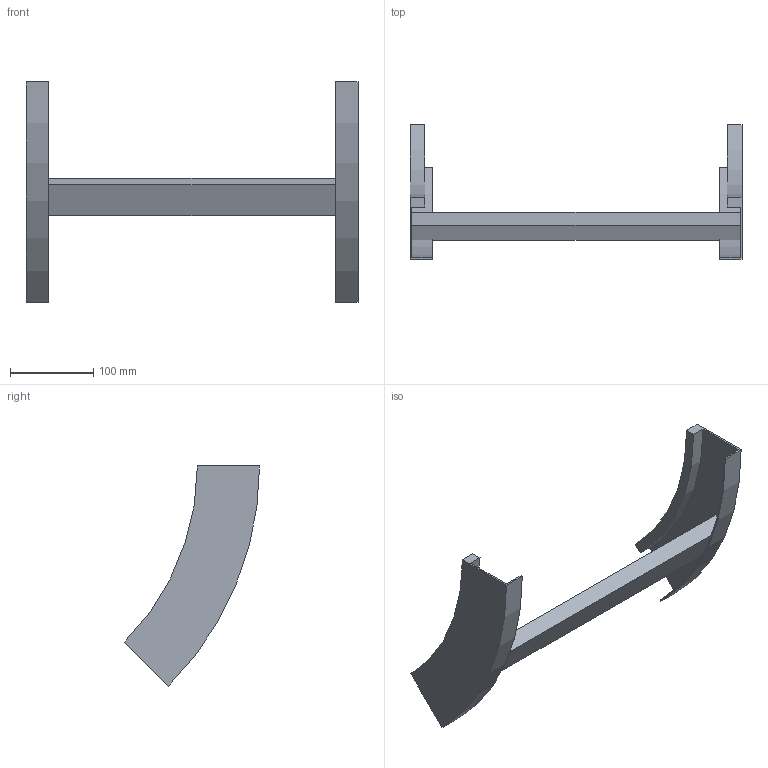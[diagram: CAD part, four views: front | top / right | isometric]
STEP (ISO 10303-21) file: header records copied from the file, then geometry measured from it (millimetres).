
FILE_DESCRIPTION (( 'STEP AP214' ), '1' );
FILE_NAME ('B2X31B3C400XX.step', '2025-03-20T10:10:22', ( '' ), ( '' ), 'SwSTEP 2.0', 'SolidWorks 2023', '' );
FILE_SCHEMA (( 'AUTOMOTIVE_DESIGN' ));
Length unit declared in the file: millimetre
Products named in the file (3): B2X31B3C400XX; TRAVERSINO_400; B2_LONGH.SALITA_45°_H75_R300
Assembly tree (3 placements, depth 2):
  B2X31B3C400XX
    B2_LONGH.SALITA_45°_H75_R300  x2
    TRAVERSINO_400
Bounding box: 400 x 162.87 x 265.17 mm (x, y, z)
Volume: 521942.9 mm3; surface area: 177501.3 mm2
Topology: 3 solids, 3 shells, 26 faces, 60 edges, 40 vertices
Faces by surface type: plane 18, cylinder 8
Entity records: 544 total; most frequent: DIRECTION 88, CARTESIAN_POINT 82, ORIENTED_EDGE 72, EDGE_CURVE 36, AXIS2_PLACEMENT_3D 30, VECTOR 28, LINE 28, VERTEX_POINT 24
